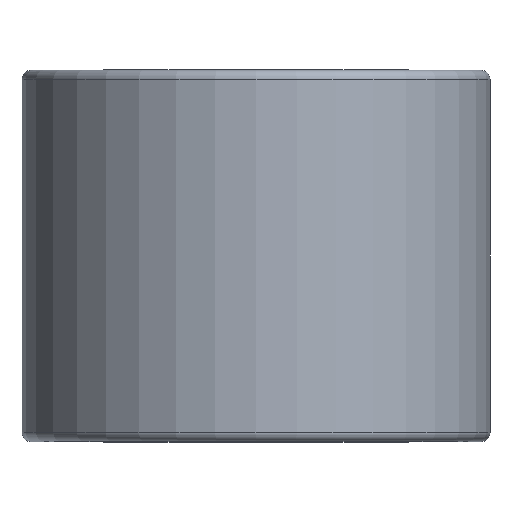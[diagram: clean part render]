
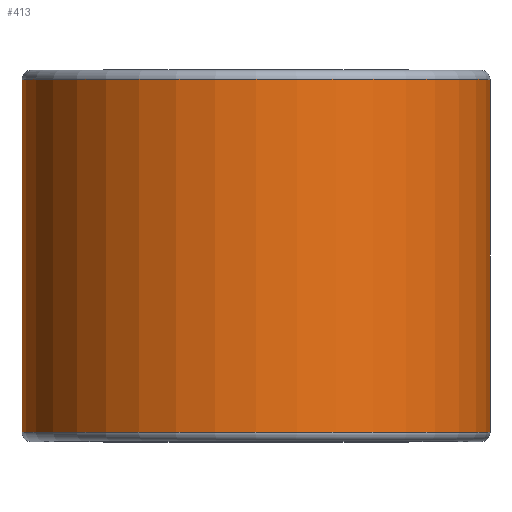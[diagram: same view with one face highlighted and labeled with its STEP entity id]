
A CAD part, top view. The second image highlights one B-rep face of the part: STEP entity #413.
In plain terms, the highlighted cylindrical face has radius 252 mm (diameter 504 mm), a full revolution.
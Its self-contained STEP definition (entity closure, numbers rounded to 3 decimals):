
#45=FACE_BOUND('',#139,.T.);
#91=FACE_OUTER_BOUND('',#138,.T.);
#138=EDGE_LOOP('',(#328));
#139=EDGE_LOOP('',(#329));
#204=CIRCLE('',#475,252.);
#206=CIRCLE('',#478,252.);
#242=VERTEX_POINT('',#722);
#244=VERTEX_POINT('',#727);
#280=EDGE_CURVE('',#242,#242,#204,.T.);
#282=EDGE_CURVE('',#244,#244,#206,.T.);
#328=ORIENTED_EDGE('',*,*,#282,.F.);
#329=ORIENTED_EDGE('',*,*,#280,.F.);
#386=CYLINDRICAL_SURFACE('',#477,252.);
#413=ADVANCED_FACE('',(#91,#45),#386,.T.);
#475=AXIS2_PLACEMENT_3D('',#723,#586,#587);
#477=AXIS2_PLACEMENT_3D('',#726,#590,#591);
#478=AXIS2_PLACEMENT_3D('',#728,#592,#593);
#586=DIRECTION('center_axis',(0.,1.,0.));
#587=DIRECTION('ref_axis',(1.,0.,0.));
#590=DIRECTION('center_axis',(0.,1.,0.));
#591=DIRECTION('ref_axis',(1.,0.,0.));
#592=DIRECTION('center_axis',(0.,-1.,0.));
#593=DIRECTION('ref_axis',(1.,0.,0.));
#722=CARTESIAN_POINT('',(-252.,190.,0.));
#723=CARTESIAN_POINT('Origin',(0.,190.,0.));
#726=CARTESIAN_POINT('Origin',(0.,0.,0.));
#727=CARTESIAN_POINT('',(-252.,-190.,0.));
#728=CARTESIAN_POINT('Origin',(0.,-190.,0.));
